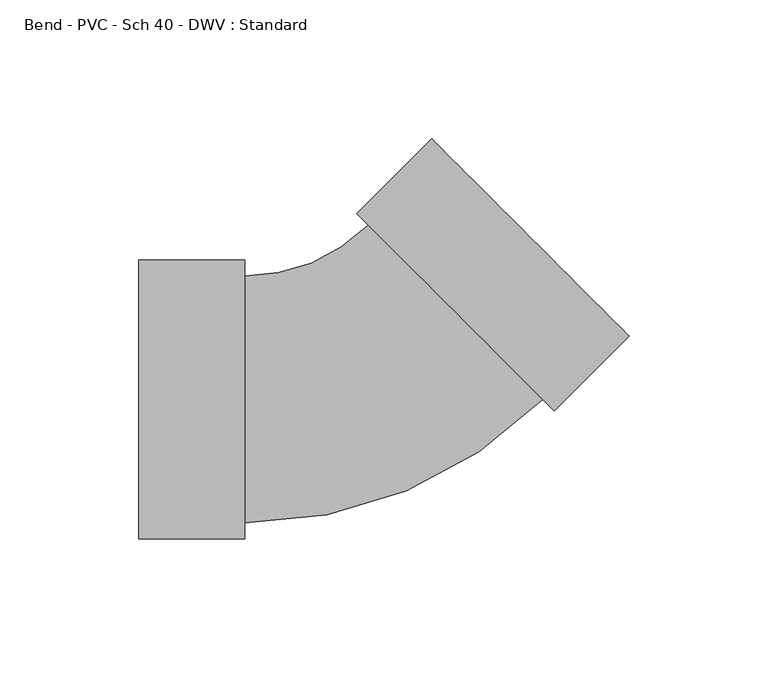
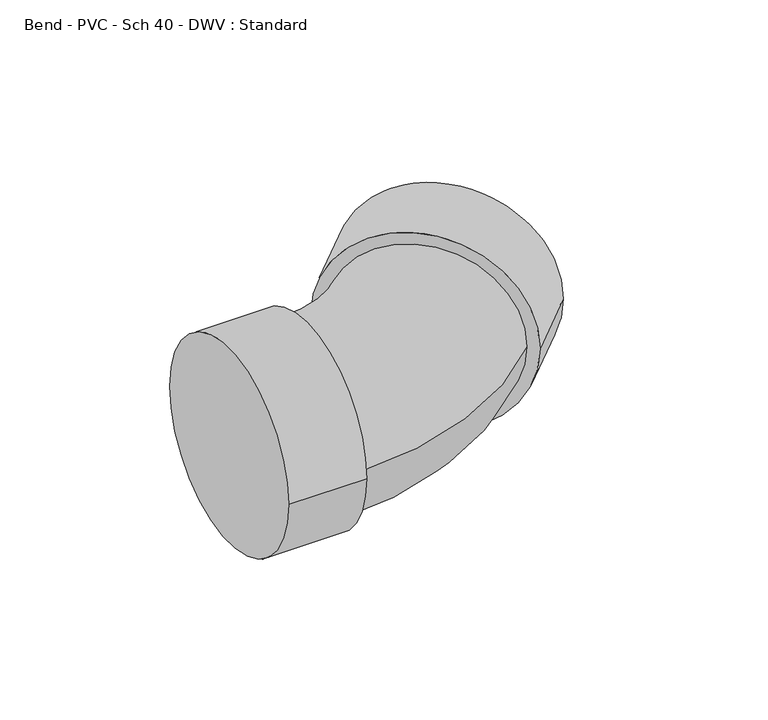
"""IFC4 building model written with IfcOpenShell, lengths in millimetres: pipe fitting geometry, Bend - PVC - Sch 40 - DWV : Standard."""

import ifcopenshell
import ifcopenshell.guid

model = None  # the IFC model being written
_history = None  # IfcOwnerHistory: only IFC2X3 demands one
_inside = {}  # id of a spatial element -> (the spatial element, [elements in it])
_under = {}  # id of a project, library or spatial element -> (it, [spatial elements below it])
_declared = {}  # id of a project -> (the project, [libraries it declares])
_typed = {}  # id of a type object -> (the type object, [elements of that type])
_made_of = {}  # id of a material, layer set ... -> (it, [elements and type objects made of it])


def new_model(schema):
    """Start an empty IFC model of exactly this schema.

    Asked for "IFC4X3", IfcOpenShell would pick the latest addendum, in which some entities
    have other attributes; the version numbers below select the first issue.
    IFC2X3 requires an IfcOwnerHistory on every rooted entity: one is made here for all.
    """
    global model, _history
    if schema == "IFC4X3":
        model = ifcopenshell.file(schema_version=(4, 3, 0, 0))
    else:
        model = ifcopenshell.file(schema=schema)
    _inside.clear()
    _under.clear()
    _declared.clear()
    _typed.clear()
    _made_of.clear()
    _history = None
    if model.schema == "IFC2X3":
        org = make("IfcOrganization", Name="unknown")
        user = make(
            "IfcPersonAndOrganization",
            ThePerson=make("IfcPerson", FamilyName="unknown"),
            TheOrganization=org,
        )
        app = make(
            "IfcApplication",
            ApplicationDeveloper=org,
            Version="unknown",
            ApplicationFullName="unknown",
            ApplicationIdentifier="unknown",
        )
        _history = make(
            "IfcOwnerHistory",
            OwningUser=user,
            OwningApplication=app,
            ChangeAction="ADDED",
            CreationDate=0,
        )
    return model


def make(cls, **values):
    """One entity of the class cls with the attributes given. An attribute that is None is left unset."""
    return model.create_entity(
        cls, **{name: value for name, value in values.items() if value is not None}
    )


def rooted(cls, **values):
    """An entity with a GlobalId (a new one), such as an element, a storey or a relation."""
    return make(cls, GlobalId=ifcopenshell.guid.new(), OwnerHistory=_history, **values)


def si_unit(unit_type, name, prefix=None):
    """IfcSIUnit, for example si_unit("LENGTHUNIT", "METRE", prefix="MILLI")."""
    return make("IfcSIUnit", UnitType=unit_type, Prefix=prefix, Name=name)


def assignment(units):
    """IfcUnitAssignment: the units of a project."""
    return None if units is None else make("IfcUnitAssignment", Units=units)


def point(xyz):
    """IfcCartesianPoint."""
    return None if xyz is None else make("IfcCartesianPoint", Coordinates=xyz)


def direction(xyz):
    """IfcDirection."""
    return None if xyz is None else make("IfcDirection", DirectionRatios=xyz)


def frame(location, z_axis=None, x_axis=None):
    """IfcAxis2Placement3D, a coordinate frame: its origin and axes. An axis left out is left unset."""
    return make(
        "IfcAxis2Placement3D",
        Location=point(location),
        Axis=direction(z_axis),
        RefDirection=direction(x_axis),
    )


def origin():
    """The frame at (0, 0, 0) with its axes left unset."""
    return frame((0.0, 0.0, 0.0))


def place(relative_to, where):
    """IfcLocalPlacement: puts the frame where relative to a parent placement (None: the world)."""
    return make(
        "IfcLocalPlacement", PlacementRelTo=relative_to, RelativePlacement=where
    )


def context(
    kind, dimensions, precision=None, world=None, true_north=None, identifier=None
):
    """IfcGeometricRepresentationContext, for example the 3D "Model" context."""
    return make(
        "IfcGeometricRepresentationContext",
        ContextIdentifier=identifier,
        ContextType=kind,
        CoordinateSpaceDimension=dimensions,
        Precision=precision,
        WorldCoordinateSystem=world,
        TrueNorth=true_north,
    )


def project(units=None, contexts=None):
    """IfcProject with its units and contexts."""
    return rooted(
        "IfcProject",
        Name="project",
        RepresentationContexts=contexts,
        UnitsInContext=assignment(units),
    )


def spatial(cls, under=None, at=None, **own):
    """A site, building, storey or space (cls), placed at a placement, below another one or the project."""
    s = rooted(cls, ObjectPlacement=at, **own)
    if under is not None:
        _under.setdefault(under.id(), (under, []))[1].append(s)
    return s


def circle_curve(where, radius):
    """IfcCircle in the frame where."""
    return make("IfcCircle", Position=where, Radius=radius)


def ellipse_curve(where, semi_axis1, semi_axis2):
    """IfcEllipse in the frame where."""
    return make(
        "IfcEllipse", Position=where, SemiAxis1=semi_axis1, SemiAxis2=semi_axis2
    )


def trimmed(basis, trim1, trim2, sense, master):
    """IfcTrimmedCurve: the piece of a basis curve between two trims."""
    return make(
        "IfcTrimmedCurve",
        BasisCurve=basis,
        Trim1=trim1,
        Trim2=trim2,
        SenseAgreement=sense,
        MasterRepresentation=master,
    )


def shape(context_of_items, identifier, shape_type, items):
    """IfcShapeRepresentation: the items that make up one representation, for example the "Body"."""
    return make(
        "IfcShapeRepresentation",
        ContextOfItems=context_of_items,
        RepresentationIdentifier=identifier,
        RepresentationType=shape_type,
        Items=items,
    )


def source(mapping_origin, context_of_items, identifier, shape_type, items):
    """IfcRepresentationMap: a shape defined once, which mapped items show again and again."""
    return make(
        "IfcRepresentationMap",
        MappingOrigin=mapping_origin,
        MappedRepresentation=shape(context_of_items, identifier, shape_type, items),
    )


def transform(
    local_origin,
    x_axis=None,
    y_axis=None,
    z_axis=None,
    scale=None,
    scale2=None,
    scale3=None,
    uniform=True,
):
    """IfcCartesianTransformationOperator3D, or its non-uniform kind. x_axis, y_axis, z_axis: its Axis1, 2, 3."""
    if uniform:
        return make(
            "IfcCartesianTransformationOperator3D",
            Axis1=direction(x_axis),
            Axis2=direction(y_axis),
            LocalOrigin=point(local_origin),
            Scale=scale,
            Axis3=direction(z_axis),
        )
    return make(
        "IfcCartesianTransformationOperator3DnonUniform",
        Axis1=direction(x_axis),
        Axis2=direction(y_axis),
        LocalOrigin=point(local_origin),
        Scale=scale,
        Axis3=direction(z_axis),
        Scale2=scale2,
        Scale3=scale3,
    )


def mapped(mapping_source, mapping_target):
    """IfcMappedItem: shows the shape of a source again, moved by a transform."""
    return make(
        "IfcMappedItem", MappingSource=mapping_source, MappingTarget=mapping_target
    )


def made_of(thing, what):
    """Note that an element or type object is made of a material, layer set ...; save() writes the relation."""
    if what is not None:
        _made_of.setdefault(what.id(), (what, []))[1].append(thing)
    return thing


def element(
    cls,
    number,
    at=None,
    inside=None,
    cuts=None,
    type_object=None,
    material=None,
    context=None,
    identifier="Body",
    shape_type=None,
    held_by="IfcProductDefinitionShape",
    body=None,
    shapes=None,
    **own,
):
    """One element of the class cls, such as IfcWall. Its Tag is "e" and its number.

    at: its placement. inside: the storey or other place that contains it. cuts: it is an
    opening in that element (IfcRelVoidsElement). A single representation is given by context,
    identifier, shape_type and body (its items); several are given by shapes. held_by: the class
    of the entity that holds the representations. save() writes the other relations.
    """
    e = rooted(cls, Tag="e%d" % number, ObjectPlacement=at, **own)
    if body is not None:
        shapes = [shape(context, identifier, shape_type, body)]
    if shapes is not None:
        e.Representation = make(held_by, Representations=shapes)
    if inside is not None:
        _inside.setdefault(inside.id(), (inside, []))[1].append(e)
    if cuts is not None:
        rooted(
            "IfcRelVoidsElement", RelatingBuildingElement=cuts, RelatedOpeningElement=e
        )
    if type_object is not None:
        _typed.setdefault(type_object.id(), (type_object, []))[1].append(e)
    return made_of(e, material)


def aggregate(whole, parts):
    """IfcRelAggregates: a whole, such as a stair, and the parts it consists of."""
    return rooted("IfcRelAggregates", RelatingObject=whole, RelatedObjects=parts)


def save(model, path):
    """Write the relations noted so far, then the file.

    IfcRelAggregates (storeys below a building ...), IfcRelContainedInSpatialStructure (elements
    in a storey), IfcRelDefinesByType, IfcRelAssociatesMaterial and IfcRelDeclares: one each for
    every whole, place, type object, material and project.
    """
    for whole, parts in _under.values():
        aggregate(whole, parts)
    for where, things in _inside.values():
        rooted(
            "IfcRelContainedInSpatialStructure",
            RelatedElements=things,
            RelatingStructure=where,
        )
    for kind, things in _typed.values():
        rooted("IfcRelDefinesByType", RelatedObjects=things, RelatingType=kind)
    for what, things in _made_of.values():
        rooted("IfcRelAssociatesMaterial", RelatedObjects=things, RelatingMaterial=what)
    for by, libraries in _declared.values():
        rooted("IfcRelDeclares", RelatingContext=by, RelatedDefinitions=libraries)
    model.write(path)


def plane_surface(at):
    """IfcPlane: the flat surface through the origin of the frame at, square to its z axis."""
    return make("IfcPlane", Position=at)


def cylinder_surface(at, radius):
    """IfcCylindricalSurface: all points at the distance radius from the z axis of the frame at."""
    return make("IfcCylindricalSurface", Position=at, Radius=radius)


def revolved_surface(curve, axis_point, axis_direction):
    """IfcSurfaceOfRevolution: the curve turned about the line through axis_point along axis_direction."""
    return make(
        "IfcSurfaceOfRevolution",
        SweptCurve=make("IfcArbitraryOpenProfileDef", ProfileType="CURVE", Curve=curve),
        AxisPosition=make("IfcAxis1Placement", Location=point(axis_point), Axis=direction(axis_direction)),
    )


def advanced_brep(points, edges, surfaces, faces):
    """IfcAdvancedBrep: a solid bounded by faces that lie on surfaces and meet in shared edges.

    An edge is (start, end): straight between two places in points (the first is 0);
    or (start, end, curve); or (start, end, curve, False) where it runs against its curve.
    A face is (place in surfaces, loops), or (place, loops, False) where it looks against
    its surface's normal. A loop lists edges by number (the first is 1), with a minus sign
    where the edge is run from its end to its start. The first loop is the outer one.
    """
    corners = [point(p) for p in points]
    vertices = [make("IfcVertexPoint", VertexGeometry=c) for c in corners]
    made = []
    for start, end, *more in edges:
        made.append(
            make(
                "IfcEdgeCurve",
                EdgeStart=vertices[start],
                EdgeEnd=vertices[end],
                EdgeGeometry=more[0] if more else make("IfcPolyline", Points=[corners[start], corners[end]]),
                SameSense=more[1] if len(more) > 1 else True,
            )
        )
    hull = []
    for where, loops, *sense in faces:
        bounds = []
        for j, loop in enumerate(loops):
            ring = [make("IfcOrientedEdge", EdgeElement=made[abs(k) - 1], Orientation=k > 0) for k in loop]
            bounds.append(
                make(
                    "IfcFaceOuterBound" if j == 0 else "IfcFaceBound",
                    Bound=make("IfcEdgeLoop", EdgeList=ring),
                    Orientation=True,
                )
            )
        hull.append(make("IfcAdvancedFace", Bounds=bounds, FaceSurface=surfaces[where], SameSense=sense[0] if sense else True))
    return make("IfcAdvancedBrep", Outer=make("IfcClosedShell", CfsFaces=hull))


def bend_pvc_sch_40_dwv_standard_1671ccc9(model_context):
    return source(origin(), model_context, "Body", "AdvancedBrep", [
        advanced_brep(
        [(-82.55, -50.2666, 0.0), (-82.55, 50.2666, 0.0), (-44.45, -50.2666, 0.0), (-44.45, 50.2666, 0.0), (-44.45, -44.45, 0.0), (-44.45, 44.45, 0.0), (0.0033406, 62.8617928, 0.0), (62.8617928, -0.0033406, 0.0), (66.9745315, -4.1165165, 0.0), (-4.1093981, 66.9749686, 0.0), (93.9167315, 22.8228202, 0.0), (22.8328019, 93.9143053, 0.0)],
        [
            (0, 1, circle_curve(frame((-82.55, 0.0, 0.0), z_axis=(-1.0, 0.0, 0.0), x_axis=(0.0, 1.0, 0.0)), 50.2666)),
            (1, 0, circle_curve(frame((-82.55, 0.0, 0.0), z_axis=(-1.0, 0.0, 0.0), x_axis=(0.0, 1.0, 0.0)), 50.2666)),
            (2, 3, circle_curve(frame((-44.45, 0.0, 0.0), z_axis=(1.0, 0.0, 0.0), x_axis=(0.0, 1.0, 0.0)), 50.2666)),
            (3, 2, circle_curve(frame((-44.45, 0.0, 0.0), z_axis=(1.0, 0.0, 0.0), x_axis=(0.0, 1.0, 0.0)), 50.2666)),
            (4, 5, circle_curve(frame((-44.45, 0.0, 0.0), z_axis=(-1.0, 0.0, 0.0), x_axis=(0.0, 1.0, 0.0)), 44.45)),
            (5, 4, circle_curve(frame((-44.45, 0.0, 0.0), z_axis=(-1.0, 0.0, 0.0), x_axis=(0.0, 1.0, 0.0)), 44.45)),
            (0, 2),
            (3, 1),
            (6, 5, circle_curve(frame((-44.45, 107.3198583, 0.0), z_axis=(0.0, 0.0, -1.0), x_axis=(0.0, -1.0, 0.0)), 62.8698583)),
            (4, 7, circle_curve(frame((-44.45, 107.3198583, 0.0), z_axis=(0.0, 0.0, 1.0), x_axis=(0.0, -1.0, 0.0)), 151.7698583)),
            (7, 6, circle_curve(frame((31.4325667, 31.4292261, 0.0), z_axis=(-0.7071443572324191, -0.707069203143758, 0.0), x_axis=(-0.707069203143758, 0.7071443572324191, 0.0)), 44.45)),
            (6, 7, circle_curve(frame((31.4325667, 31.4292261, 0.0), z_axis=(-0.7071443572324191, -0.707069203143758, 0.0), x_axis=(-0.707069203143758, 0.7071443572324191, 0.0)), 44.45)),
            (8, 9, circle_curve(frame((31.4325667, 31.4292261, 0.0), z_axis=(-0.7071443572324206, -0.7070692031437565, 0.0), x_axis=(-0.7070692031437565, 0.7071443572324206, 0.0)), 50.2666)),
            (9, 8, circle_curve(frame((31.4325667, 31.4292261, 0.0), z_axis=(-0.7071443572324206, -0.7070692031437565, 0.0), x_axis=(-0.7070692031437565, 0.7071443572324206, 0.0)), 50.2666)),
            (10, 11, circle_curve(frame((58.3747667, 58.3685627, 0.0), z_axis=(0.7071443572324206, 0.7070692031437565, 0.0), x_axis=(-0.7070692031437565, 0.7071443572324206, 0.0)), 50.2666)),
            (11, 10, circle_curve(frame((58.3747667, 58.3685627, 0.0), z_axis=(0.7071443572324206, 0.7070692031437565, 0.0), x_axis=(-0.7070692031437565, 0.7071443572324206, 0.0)), 50.2666)),
            (8, 10),
            (11, 9),
        ],
        [
            plane_surface(frame((-82.55, 0.0, 0.0), z_axis=(-1.0, 0.0, 0.0), x_axis=(0.0, 0.0, 1.0))),
            plane_surface(frame((-44.45, 0.0, 0.0), z_axis=(1.0, 0.0, 0.0), x_axis=(0.0, 0.0, 1.0))),
            cylinder_surface(frame((-82.55, 0.0, 0.0), z_axis=(-1.0, 0.0, 0.0), x_axis=(0.0, 1.0, 0.0)), 50.2666),
            revolved_surface(trimmed(ellipse_curve(frame((-44.45, 0.0, 0.0), z_axis=(-1.0, 0.0, 0.0), x_axis=(0.0, 1.0, 0.0)), 44.45, 44.45), [point((-44.45, -44.45, 0.0))], [point((-44.45, 44.45, 0.0))], True, "CARTESIAN"), (-44.45, 107.3198583, 0.0), (0.0, 0.0, 1.0)),
            revolved_surface(trimmed(ellipse_curve(frame((-44.45, 0.0, 0.0), z_axis=(-1.0, 0.0, 0.0), x_axis=(0.0, 1.0, 0.0)), 44.45, 44.45), [point((-44.45, 44.45, 0.0))], [point((-44.45, -44.45, 0.0))], True, "CARTESIAN"), (-44.45, 107.3198583, 0.0), (0.0, 0.0, 1.0)),
            plane_surface(frame((31.4325667, 31.4292261, 0.0), z_axis=(-0.7071443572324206, -0.7070692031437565, 0.0), x_axis=(0.0, 0.0, 1.0))),
            plane_surface(frame((58.3747667, 58.3685627, 0.0), z_axis=(0.7071443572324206, 0.7070692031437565, 0.0), x_axis=(0.0, 0.0, 1.0))),
            cylinder_surface(frame((31.4325667, 31.4292261, 0.0), z_axis=(-0.7071443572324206, -0.7070692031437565, 0.0), x_axis=(-0.7070692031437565, 0.7071443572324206, 0.0)), 50.2666),
        ],
        [
            (0, [[1, 2]]),
            (1, [[3, 4], [5, 6]]),
            (2, [[-1, 7, -4, 8]]),
            (2, [[-2, -8, -3, -7]]),
            (3, [[9, -5, 10, 11]]),
            (4, [[-9, 12, -10, -6]]),
            (5, [[13, 14], [-11, -12]]),
            (6, [[15, 16]]),
            (7, [[-13, 17, -16, 18]]),
            (7, [[-14, -18, -15, -17]]),
        ],
    ),
    ])


if __name__ == "__main__":
    model = new_model("IFC4")
    model_context = context("Model", 3, world=origin())
    ifc_project = project(units=[si_unit("LENGTHUNIT", "METRE", prefix="MILLI")], contexts=[model_context])
    site = spatial("IfcSite", under=ifc_project)
    building = spatial("IfcBuilding", under=site)
    placement = place(None, origin())
    bend_pvc_sch_40_dwv_standard_shape = bend_pvc_sch_40_dwv_standard_1671ccc9(model_context)
    element("IfcPipeFitting", 1, ObjectType="Bend - PVC - Sch 40 - DWV : Standard", at=placement, inside=building, context=model_context, shape_type="MappedRepresentation", body=[
        mapped(bend_pvc_sch_40_dwv_standard_shape, transform((0.0, 0.0, 0.0), x_axis=(1.0, 0.0, 0.0), y_axis=(0.0, 1.0, 0.0), z_axis=(0.0, 0.0, 1.0))),
    ])
    save(model, "model.ifc")
